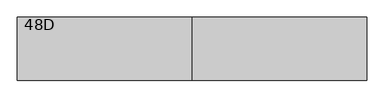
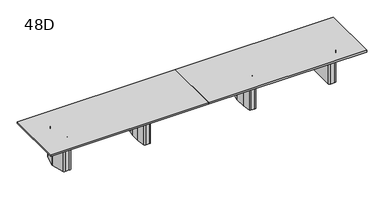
"""IFC4 building model written with IfcOpenShell, lengths in millimetres: furniture geometry, Coalesse_AM_Table_Conference_ETable2_Rectangular_22ft_FourBase : 48D."""

from ifc_helpers import new_model, si_unit, frame, origin, place, context, project, spatial, polyline, circle_curve, outline, extrude, source, transform, mapped, element, save
from ifc_brep_helpers import plane_surface, cylinder_surface, revolved_surface, advanced_brep


def furniture_48d_83eda018(model_context):
    return source(origin(), model_context, "Body", "SolidModel", [
        advanced_brep(
        [(1153.31875, 206.375, 3.175), (1127.91875, 231.775, 3.175), (1107.28125, 231.775, 3.175), (1081.88125, 206.375, 3.175), (1081.88125, -206.375, 3.175), (1107.28125, -231.775, 3.175), (1127.91875, -231.775, 3.175), (1153.31875, -206.375, 3.175), (1056.48125, 206.375, 0.0), (1107.28125, 257.175, 0.0), (1127.91875, 257.175, 0.0), (1178.71875, 206.375, 0.0), (1178.71875, -206.375, 0.0), (1127.91875, -257.175, 0.0), (1107.28125, -257.175, 0.0), (1056.48125, -206.375, 0.0), (1056.48125, -206.375, 3.175), (1056.48125, 206.375, 3.175), (1107.28125, -257.175, 3.175), (1127.91875, -257.175, 3.175), (1178.71875, -206.375, 3.175), (1178.71875, 206.375, 3.175), (1127.91875, 257.175, 3.175), (1107.28125, 257.175, 3.175), (1024.9784026, 106.2976848, 698.5), (1024.73125, 102.7629613, 698.5), (1024.73125, -102.7629613, 698.5), (1024.9784026, -106.2976848, 698.5), (1049.8011625, -282.9347235, 698.5), (1074.9540098, -304.8, 698.5), (1160.2459902, -304.8, 698.5), (1185.3988375, -282.9347235, 698.5), (1210.2215974, -106.2976848, 698.5), (1210.46875, -102.7629613, 698.5), (1210.46875, 102.7629613, 698.5), (1210.2215974, 106.2976848, 698.5), (1185.3988375, 282.9347235, 698.5), (1160.2459902, 304.8, 698.5), (1074.9540098, 304.8, 698.5), (1049.8011625, 282.9347235, 698.5), (1127.91875, 231.775, 698.5), (1153.31875, 206.375, 698.5), (1153.31875, -206.375, 698.5), (1127.91875, -231.775, 698.5), (1107.28125, -231.775, 698.5), (1081.88125, -206.375, 698.5), (1081.88125, 206.375, 698.5), (1107.28125, 231.775, 698.5), (1024.9784026, 106.2976848, 3.175), (1049.8011625, 282.9347235, 3.175), (1074.9540098, 304.8, 3.175), (1160.2459902, 304.8, 3.175), (1185.3988375, 282.9347235, 3.175), (1210.2215974, 106.2976848, 3.175), (1210.46875, 102.7629613, 3.175), (1210.46875, -102.7629613, 3.175), (1210.2215974, -106.2976848, 3.175), (1185.3988375, -282.9347235, 3.175), (1160.2459902, -304.8, 3.175), (1074.9540098, -304.8, 3.175), (1049.8011625, -282.9347235, 3.175), (1024.9784026, -106.2976848, 3.175), (1024.73125, -102.7629613, 3.175), (1024.73125, 102.7629613, 3.175)],
        [
            (0, 1, circle_curve(frame((1127.91875, 206.375, 3.175), z_axis=(0.0, 0.0, 1.0), x_axis=(1.0, 0.0, 0.0)), 25.4)),
            (1, 2),
            (2, 3, circle_curve(frame((1107.28125, 206.375, 3.175), z_axis=(0.0, 0.0, 1.0), x_axis=(1.0, 0.0, 0.0)), 25.4)),
            (3, 4),
            (4, 5, circle_curve(frame((1107.28125, -206.375, 3.175), z_axis=(0.0, 0.0, 1.0), x_axis=(1.0, 0.0, 0.0)), 25.4)),
            (5, 6),
            (6, 7, circle_curve(frame((1127.91875, -206.375, 3.175), z_axis=(0.0, 0.0, 1.0), x_axis=(1.0, 0.0, 0.0)), 25.4)),
            (7, 0),
            (8, 9, circle_curve(frame((1107.28125, 206.375, 0.0), z_axis=(0.0, 0.0, -1.0), x_axis=(1.0, 0.0, 0.0)), 50.8)),
            (9, 10),
            (10, 11, circle_curve(frame((1127.91875, 206.375, 0.0), z_axis=(0.0, 0.0, -1.0), x_axis=(1.0, 0.0, 0.0)), 50.8)),
            (11, 12),
            (12, 13, circle_curve(frame((1127.91875, -206.375, 0.0), z_axis=(0.0, 0.0, -1.0), x_axis=(1.0, 0.0, 0.0)), 50.8)),
            (13, 14),
            (14, 15, circle_curve(frame((1107.28125, -206.375, 0.0), z_axis=(0.0, 0.0, -1.0), x_axis=(1.0, 0.0, 0.0)), 50.8)),
            (15, 8),
            (15, 16),
            (16, 17),
            (17, 8),
            (14, 18),
            (18, 16, circle_curve(frame((1107.28125, -206.375, 3.175), z_axis=(0.0, 0.0, -1.0), x_axis=(1.0, 0.0, 0.0)), 50.8)),
            (13, 19),
            (19, 18),
            (12, 20),
            (20, 19, circle_curve(frame((1127.91875, -206.375, 3.175), z_axis=(0.0, 0.0, -1.0), x_axis=(1.0, 0.0, 0.0)), 50.8)),
            (11, 21),
            (21, 20),
            (10, 22),
            (22, 21, circle_curve(frame((1127.91875, 206.375, 3.175), z_axis=(0.0, 0.0, -1.0), x_axis=(1.0, 0.0, 0.0)), 50.8)),
            (9, 23),
            (23, 22),
            (17, 23, circle_curve(frame((1107.28125, 206.375, 3.175), z_axis=(0.0, 0.0, -1.0), x_axis=(1.0, 0.0, 0.0)), 50.8)),
            (24, 25, circle_curve(frame((1050.13125, 102.7629613, 698.5), z_axis=(0.0, 0.0, 1.0), x_axis=(1.0, 0.0, 0.0)), 25.4)),
            (25, 26),
            (26, 27, circle_curve(frame((1050.13125, -102.7629613, 698.5), z_axis=(0.0, 0.0, 1.0), x_axis=(1.0, 0.0, 0.0)), 25.4)),
            (27, 28),
            (28, 29, circle_curve(frame((1074.9540098, -279.4, 698.5), z_axis=(0.0, 0.0, 1.0), x_axis=(1.0, 0.0, 0.0)), 25.4)),
            (29, 30),
            (30, 31, circle_curve(frame((1160.2459902, -279.4, 698.5), z_axis=(0.0, 0.0, 1.0), x_axis=(1.0, 0.0, 0.0)), 25.4)),
            (31, 32),
            (32, 33, circle_curve(frame((1185.06875, -102.7629613, 698.5), z_axis=(0.0, 0.0, 1.0), x_axis=(1.0, 0.0, 0.0)), 25.4)),
            (33, 34),
            (34, 35, circle_curve(frame((1185.06875, 102.7629613, 698.5), z_axis=(0.0, 0.0, 1.0), x_axis=(1.0, 0.0, 0.0)), 25.4)),
            (35, 36),
            (36, 37, circle_curve(frame((1160.2459902, 279.4, 698.5), z_axis=(0.0, 0.0, 1.0), x_axis=(1.0, 0.0, 0.0)), 25.4)),
            (37, 38),
            (38, 39, circle_curve(frame((1074.9540098, 279.4, 698.5), z_axis=(0.0, 0.0, 1.0), x_axis=(1.0, 0.0, 0.0)), 25.4)),
            (39, 24),
            (40, 41, circle_curve(frame((1127.91875, 206.375, 698.5), z_axis=(0.0, 0.0, -1.0), x_axis=(1.0, 0.0, 0.0)), 25.4)),
            (41, 42),
            (42, 43, circle_curve(frame((1127.91875, -206.375, 698.5), z_axis=(0.0, 0.0, -1.0), x_axis=(1.0, 0.0, 0.0)), 25.4)),
            (43, 44),
            (44, 45, circle_curve(frame((1107.28125, -206.375, 698.5), z_axis=(0.0, 0.0, -1.0), x_axis=(1.0, 0.0, 0.0)), 25.4)),
            (45, 46),
            (46, 47, circle_curve(frame((1107.28125, 206.375, 698.5), z_axis=(0.0, 0.0, -1.0), x_axis=(1.0, 0.0, 0.0)), 25.4)),
            (47, 40),
            (48, 49),
            (49, 50, circle_curve(frame((1074.9540098, 279.4, 3.175), z_axis=(0.0, 0.0, -1.0), x_axis=(1.0, 0.0, 0.0)), 25.4)),
            (50, 51),
            (51, 52, circle_curve(frame((1160.2459902, 279.4, 3.175), z_axis=(0.0, 0.0, -1.0), x_axis=(1.0, 0.0, 0.0)), 25.4)),
            (52, 53),
            (53, 54, circle_curve(frame((1185.06875, 102.7629613, 3.175), z_axis=(0.0, 0.0, -1.0), x_axis=(1.0, 0.0, 0.0)), 25.4)),
            (54, 55),
            (55, 56, circle_curve(frame((1185.06875, -102.7629613, 3.175), z_axis=(0.0, 0.0, -1.0), x_axis=(1.0, 0.0, 0.0)), 25.4)),
            (56, 57),
            (57, 58, circle_curve(frame((1160.2459902, -279.4, 3.175), z_axis=(0.0, 0.0, -1.0), x_axis=(1.0, 0.0, 0.0)), 25.4)),
            (58, 59),
            (59, 60, circle_curve(frame((1074.9540098, -279.4, 3.175), z_axis=(0.0, 0.0, -1.0), x_axis=(1.0, 0.0, 0.0)), 25.4)),
            (60, 61),
            (61, 62, circle_curve(frame((1050.13125, -102.7629613, 3.175), z_axis=(0.0, 0.0, -1.0), x_axis=(1.0, 0.0, 0.0)), 25.4)),
            (62, 63),
            (63, 48, circle_curve(frame((1050.13125, 102.7629613, 3.175), z_axis=(0.0, 0.0, -1.0), x_axis=(1.0, 0.0, 0.0)), 25.4)),
            (24, 48),
            (63, 25),
            (62, 26),
            (61, 27),
            (60, 28),
            (59, 29),
            (58, 30),
            (57, 31),
            (56, 32),
            (55, 33),
            (54, 34),
            (53, 35),
            (52, 36),
            (51, 37),
            (50, 38),
            (49, 39),
            (40, 1),
            (0, 41),
            (7, 42),
            (6, 43),
            (5, 44),
            (4, 45),
            (3, 46),
            (2, 47),
        ],
        [
            plane_surface(frame((1056.48125, -206.375, 3.175), z_axis=(0.0, 0.0, 1.0), x_axis=(0.0, -1.0, 0.0))),
            plane_surface(frame((1056.48125, -206.375, 0.0), z_axis=(0.0, 0.0, -1.0), x_axis=(0.0, 1.0, 0.0))),
            plane_surface(frame((1056.48125, 206.375, 3.175), z_axis=(-1.0, 0.0, 0.0), x_axis=(0.0, 0.0, -1.0))),
            cylinder_surface(frame((1107.28125, -206.375, 0.0), z_axis=(0.0, 0.0, 1.0), x_axis=(1.0, 0.0, 0.0)), 50.8),
            plane_surface(frame((1107.28125, -257.175, 3.175), z_axis=(0.0, -1.0, 0.0), x_axis=(0.0, 0.0, -1.0))),
            cylinder_surface(frame((1127.91875, -206.375, 0.0), z_axis=(0.0, 0.0, 1.0), x_axis=(1.0, 0.0, 0.0)), 50.8),
            plane_surface(frame((1178.71875, -206.375, 3.175), z_axis=(1.0, 0.0, 0.0), x_axis=(0.0, 0.0, -1.0))),
            cylinder_surface(frame((1127.91875, 206.375, 0.0), z_axis=(0.0, 0.0, 1.0), x_axis=(1.0, 0.0, 0.0)), 50.8),
            plane_surface(frame((1127.91875, 257.175, 3.175), z_axis=(0.0, 1.0, 0.0), x_axis=(0.0, 0.0, -1.0))),
            cylinder_surface(frame((1107.28125, 206.375, 0.0), z_axis=(0.0, 0.0, 1.0), x_axis=(1.0, 0.0, 0.0)), 50.8),
            plane_surface(frame((1075.53125, 102.7629613, 698.5), z_axis=(0.0, 0.0, 1.0), x_axis=(0.0, 1.0, 0.0))),
            plane_surface(frame((1075.53125, 102.7629613, 3.175), z_axis=(0.0, 0.0, -1.0), x_axis=(0.0, -1.0, 0.0))),
            cylinder_surface(frame((1050.13125, 102.7629613, 3.175), z_axis=(0.0, 0.0, 1.0), x_axis=(1.0, 0.0, 0.0)), 25.4),
            plane_surface(frame((1024.73125, 102.7629613, 698.5), z_axis=(-1.0, 0.0, 0.0), x_axis=(0.0, 0.0, -1.0))),
            cylinder_surface(frame((1050.13125, -102.7629613, 3.175), z_axis=(0.0, 0.0, 1.0), x_axis=(1.0, 0.0, 0.0)), 25.4),
            plane_surface(frame((1024.9784026, -106.2976848, 698.5), z_axis=(-0.9902695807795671, -0.13916234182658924, 0.0), x_axis=(0.0, 0.0, -1.0))),
            cylinder_surface(frame((1074.9540098, -279.4, 3.175), z_axis=(0.0, 0.0, 1.0), x_axis=(1.0, 0.0, 0.0)), 25.4),
            plane_surface(frame((1074.9540098, -304.8, 698.5), z_axis=(0.0, -1.0, 0.0), x_axis=(0.0, 0.0, -1.0))),
            cylinder_surface(frame((1160.2459902, -279.4, 3.175), z_axis=(0.0, 0.0, 1.0), x_axis=(1.0, 0.0, 0.0)), 25.4),
            plane_surface(frame((1185.3988375, -282.9347235, 698.5), z_axis=(0.9902695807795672, -0.13916234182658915, 0.0), x_axis=(0.0, 0.0, -1.0))),
            cylinder_surface(frame((1185.06875, -102.7629613, 3.175), z_axis=(0.0, 0.0, 1.0), x_axis=(1.0, 0.0, 0.0)), 25.4),
            plane_surface(frame((1210.46875, -102.7629613, 698.5), z_axis=(1.0, 0.0, 0.0), x_axis=(0.0, 0.0, -1.0))),
            cylinder_surface(frame((1185.06875, 102.7629613, 3.175), z_axis=(0.0, 0.0, 1.0), x_axis=(1.0, 0.0, 0.0)), 25.4),
            plane_surface(frame((1210.2215974, 106.2976848, 698.5), z_axis=(0.9902695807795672, 0.1391623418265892, 0.0), x_axis=(0.0, 0.0, -1.0))),
            cylinder_surface(frame((1160.2459902, 279.4, 3.175), z_axis=(0.0, 0.0, 1.0), x_axis=(1.0, 0.0, 0.0)), 25.4),
            plane_surface(frame((1160.2459902, 304.8, 698.5), z_axis=(0.0, 1.0, 0.0), x_axis=(0.0, 0.0, -1.0))),
            cylinder_surface(frame((1074.9540098, 279.4, 3.175), z_axis=(0.0, 0.0, 1.0), x_axis=(1.0, 0.0, 0.0)), 25.4),
            plane_surface(frame((1049.8011625, 282.9347235, 698.5), z_axis=(-0.9902695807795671, 0.13916234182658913, 0.0), x_axis=(0.0, 0.0, -1.0))),
            revolved_surface(polyline([(1153.3187500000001, 206.375, 3.175), (1153.3187500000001, 206.375, 698.5)]), (1127.91875, 206.375, 0.0), (0.0, 0.0, -1.0)),
            plane_surface(frame((1153.31875, 206.375, 698.5), z_axis=(-1.0, 0.0, 0.0), x_axis=(0.0, 0.0, -1.0))),
            revolved_surface(polyline([(1153.3187500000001, -206.375, 3.175), (1153.3187500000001, -206.375, 698.5)]), (1127.91875, -206.375, 0.0), (0.0, 0.0, -1.0)),
            plane_surface(frame((1127.91875, -231.775, 698.5), z_axis=(0.0, 1.0, 0.0), x_axis=(0.0, 0.0, -1.0))),
            revolved_surface(polyline([(1132.68125, -206.375, 3.175), (1132.68125, -206.375, 698.5)]), (1107.28125, -206.375, 0.0), (0.0, 0.0, -1.0)),
            plane_surface(frame((1081.88125, -206.375, 698.5), z_axis=(1.0, 0.0, 0.0), x_axis=(0.0, 0.0, -1.0))),
            revolved_surface(polyline([(1132.68125, 206.375, 3.175), (1132.68125, 206.375, 698.5)]), (1107.28125, 206.375, 0.0), (0.0, 0.0, -1.0)),
            plane_surface(frame((1107.28125, 231.775, 698.5), z_axis=(0.0, -1.0, 0.0), x_axis=(0.0, 0.0, -1.0))),
        ],
        [
            (0, [[1, 2, 3, 4, 5, 6, 7, 8]]),
            (1, [[9, 10, 11, 12, 13, 14, 15, 16]]),
            (2, [[-16, 17, 18, 19]]),
            (3, [[-15, 20, 21, -17]]),
            (4, [[-14, 22, 23, -20]]),
            (5, [[-13, 24, 25, -22]]),
            (6, [[-12, 26, 27, -24]]),
            (7, [[-11, 28, 29, -26]]),
            (8, [[-10, 30, 31, -28]]),
            (9, [[-9, -19, 32, -30]]),
            (10, [[33, 34, 35, 36, 37, 38, 39, 40, 41, 42, 43, 44, 45, 46, 47, 48], [49, 50, 51, 52, 53, 54, 55, 56]]),
            (11, [[57, 58, 59, 60, 61, 62, 63, 64, 65, 66, 67, 68, 69, 70, 71, 72], [-18, -21, -23, -25, -27, -29, -31, -32]]),
            (12, [[-33, 73, -72, 74]]),
            (13, [[-34, -74, -71, 75]]),
            (14, [[-35, -75, -70, 76]]),
            (15, [[-36, -76, -69, 77]]),
            (16, [[-37, -77, -68, 78]]),
            (17, [[-38, -78, -67, 79]]),
            (18, [[-39, -79, -66, 80]]),
            (19, [[-40, -80, -65, 81]]),
            (20, [[-41, -81, -64, 82]]),
            (21, [[-42, -82, -63, 83]]),
            (22, [[-43, -83, -62, 84]]),
            (23, [[-44, -84, -61, 85]]),
            (24, [[-45, -85, -60, 86]]),
            (25, [[-46, -86, -59, 87]]),
            (26, [[-47, -87, -58, 88]]),
            (27, [[-48, -88, -57, -73]]),
            (28, [[-49, 89, -1, 90]]),
            (29, [[-50, -90, -8, 91]]),
            (30, [[-51, -91, -7, 92]]),
            (31, [[-52, -92, -6, 93]]),
            (32, [[-53, -93, -5, 94]]),
            (33, [[-54, -94, -4, 95]]),
            (34, [[-55, -95, -3, 96]]),
            (35, [[-56, -96, -2, -89]]),
        ],
    ),
        advanced_brep(
        [(-1081.88125, 206.375, 3.175), (-1107.28125, 231.775, 3.175), (-1127.91875, 231.775, 3.175), (-1153.31875, 206.375, 3.175), (-1153.31875, -206.375, 3.175), (-1127.91875, -231.775, 3.175), (-1107.28125, -231.775, 3.175), (-1081.88125, -206.375, 3.175), (-1178.71875, 206.375, 0.0), (-1127.91875, 257.175, 0.0), (-1107.28125, 257.175, 0.0), (-1056.48125, 206.375, 0.0), (-1056.48125, -206.375, 0.0), (-1107.28125, -257.175, 0.0), (-1127.91875, -257.175, 0.0), (-1178.71875, -206.375, 0.0), (-1178.71875, -206.375, 3.175), (-1178.71875, 206.375, 3.175), (-1127.91875, -257.175, 3.175), (-1107.28125, -257.175, 3.175), (-1056.48125, -206.375, 3.175), (-1056.48125, 206.375, 3.175), (-1107.28125, 257.175, 3.175), (-1127.91875, 257.175, 3.175), (-1210.2215974, 106.2976848, 698.5), (-1210.46875, 102.7629613, 698.5), (-1210.46875, -102.7629613, 698.5), (-1210.2215974, -106.2976848, 698.5), (-1185.3988375, -282.9347235, 698.5), (-1160.2459902, -304.8, 698.5), (-1074.9540098, -304.8, 698.5), (-1049.8011625, -282.9347235, 698.5), (-1024.9784026, -106.2976848, 698.5), (-1024.73125, -102.7629613, 698.5), (-1024.73125, 102.7629613, 698.5), (-1024.9784026, 106.2976848, 698.5), (-1049.8011625, 282.9347235, 698.5), (-1074.9540098, 304.8, 698.5), (-1160.2459902, 304.8, 698.5), (-1185.3988375, 282.9347235, 698.5), (-1107.28125, 231.775, 698.5), (-1081.88125, 206.375, 698.5), (-1081.88125, -206.375, 698.5), (-1107.28125, -231.775, 698.5), (-1127.91875, -231.775, 698.5), (-1153.31875, -206.375, 698.5), (-1153.31875, 206.375, 698.5), (-1127.91875, 231.775, 698.5), (-1210.2215974, 106.2976848, 3.175), (-1185.3988375, 282.9347235, 3.175), (-1160.2459902, 304.8, 3.175), (-1074.9540098, 304.8, 3.175), (-1049.8011625, 282.9347235, 3.175), (-1024.9784026, 106.2976848, 3.175), (-1024.73125, 102.7629613, 3.175), (-1024.73125, -102.7629613, 3.175), (-1024.9784026, -106.2976848, 3.175), (-1049.8011625, -282.9347235, 3.175), (-1074.9540098, -304.8, 3.175), (-1160.2459902, -304.8, 3.175), (-1185.3988375, -282.9347235, 3.175), (-1210.2215974, -106.2976848, 3.175), (-1210.46875, -102.7629613, 3.175), (-1210.46875, 102.7629613, 3.175)],
        [
            (0, 1, circle_curve(frame((-1107.28125, 206.375, 3.175), z_axis=(0.0, 0.0, 1.0), x_axis=(1.0, 0.0, 0.0)), 25.4)),
            (1, 2),
            (2, 3, circle_curve(frame((-1127.91875, 206.375, 3.175), z_axis=(0.0, 0.0, 1.0), x_axis=(1.0, 0.0, 0.0)), 25.4)),
            (3, 4),
            (4, 5, circle_curve(frame((-1127.91875, -206.375, 3.175), z_axis=(0.0, 0.0, 1.0), x_axis=(1.0, 0.0, 0.0)), 25.4)),
            (5, 6),
            (6, 7, circle_curve(frame((-1107.28125, -206.375, 3.175), z_axis=(0.0, 0.0, 1.0), x_axis=(1.0, 0.0, 0.0)), 25.4)),
            (7, 0),
            (8, 9, circle_curve(frame((-1127.91875, 206.375, 0.0), z_axis=(0.0, 0.0, -1.0), x_axis=(1.0, 0.0, 0.0)), 50.8)),
            (9, 10),
            (10, 11, circle_curve(frame((-1107.28125, 206.375, 0.0), z_axis=(0.0, 0.0, -1.0), x_axis=(1.0, 0.0, 0.0)), 50.8)),
            (11, 12),
            (12, 13, circle_curve(frame((-1107.28125, -206.375, 0.0), z_axis=(0.0, 0.0, -1.0), x_axis=(1.0, 0.0, 0.0)), 50.8)),
            (13, 14),
            (14, 15, circle_curve(frame((-1127.91875, -206.375, 0.0), z_axis=(0.0, 0.0, -1.0), x_axis=(1.0, 0.0, 0.0)), 50.8)),
            (15, 8),
            (15, 16),
            (16, 17),
            (17, 8),
            (14, 18),
            (18, 16, circle_curve(frame((-1127.91875, -206.375, 3.175), z_axis=(0.0, 0.0, -1.0), x_axis=(1.0, 0.0, 0.0)), 50.8)),
            (13, 19),
            (19, 18),
            (12, 20),
            (20, 19, circle_curve(frame((-1107.28125, -206.375, 3.175), z_axis=(0.0, 0.0, -1.0), x_axis=(1.0, 0.0, 0.0)), 50.8)),
            (11, 21),
            (21, 20),
            (10, 22),
            (22, 21, circle_curve(frame((-1107.28125, 206.375, 3.175), z_axis=(0.0, 0.0, -1.0), x_axis=(1.0, 0.0, 0.0)), 50.8)),
            (9, 23),
            (23, 22),
            (17, 23, circle_curve(frame((-1127.91875, 206.375, 3.175), z_axis=(0.0, 0.0, -1.0), x_axis=(1.0, 0.0, 0.0)), 50.8)),
            (24, 25, circle_curve(frame((-1185.06875, 102.7629613, 698.5), z_axis=(0.0, 0.0, 1.0), x_axis=(1.0, 0.0, 0.0)), 25.4)),
            (25, 26),
            (26, 27, circle_curve(frame((-1185.06875, -102.7629613, 698.5), z_axis=(0.0, 0.0, 1.0), x_axis=(1.0, 0.0, 0.0)), 25.4)),
            (27, 28),
            (28, 29, circle_curve(frame((-1160.2459902, -279.4, 698.5), z_axis=(0.0, 0.0, 1.0), x_axis=(1.0, 0.0, 0.0)), 25.4)),
            (29, 30),
            (30, 31, circle_curve(frame((-1074.9540098, -279.4, 698.5), z_axis=(0.0, 0.0, 1.0), x_axis=(1.0, 0.0, 0.0)), 25.4)),
            (31, 32),
            (32, 33, circle_curve(frame((-1050.13125, -102.7629613, 698.5), z_axis=(0.0, 0.0, 1.0), x_axis=(1.0, 0.0, 0.0)), 25.4)),
            (33, 34),
            (34, 35, circle_curve(frame((-1050.13125, 102.7629613, 698.5), z_axis=(0.0, 0.0, 1.0), x_axis=(1.0, 0.0, 0.0)), 25.4)),
            (35, 36),
            (36, 37, circle_curve(frame((-1074.9540098, 279.4, 698.5), z_axis=(0.0, 0.0, 1.0), x_axis=(1.0, 0.0, 0.0)), 25.4)),
            (37, 38),
            (38, 39, circle_curve(frame((-1160.2459902, 279.4, 698.5), z_axis=(0.0, 0.0, 1.0), x_axis=(1.0, 0.0, 0.0)), 25.4)),
            (39, 24),
            (40, 41, circle_curve(frame((-1107.28125, 206.375, 698.5), z_axis=(0.0, 0.0, -1.0), x_axis=(1.0, 0.0, 0.0)), 25.4)),
            (41, 42),
            (42, 43, circle_curve(frame((-1107.28125, -206.375, 698.5), z_axis=(0.0, 0.0, -1.0), x_axis=(1.0, 0.0, 0.0)), 25.4)),
            (43, 44),
            (44, 45, circle_curve(frame((-1127.91875, -206.375, 698.5), z_axis=(0.0, 0.0, -1.0), x_axis=(1.0, 0.0, 0.0)), 25.4)),
            (45, 46),
            (46, 47, circle_curve(frame((-1127.91875, 206.375, 698.5), z_axis=(0.0, 0.0, -1.0), x_axis=(1.0, 0.0, 0.0)), 25.4)),
            (47, 40),
            (48, 49),
            (49, 50, circle_curve(frame((-1160.2459902, 279.4, 3.175), z_axis=(0.0, 0.0, -1.0), x_axis=(1.0, 0.0, 0.0)), 25.4)),
            (50, 51),
            (51, 52, circle_curve(frame((-1074.9540098, 279.4, 3.175), z_axis=(0.0, 0.0, -1.0), x_axis=(1.0, 0.0, 0.0)), 25.4)),
            (52, 53),
            (53, 54, circle_curve(frame((-1050.13125, 102.7629613, 3.175), z_axis=(0.0, 0.0, -1.0), x_axis=(1.0, 0.0, 0.0)), 25.4)),
            (54, 55),
            (55, 56, circle_curve(frame((-1050.13125, -102.7629613, 3.175), z_axis=(0.0, 0.0, -1.0), x_axis=(1.0, 0.0, 0.0)), 25.4)),
            (56, 57),
            (57, 58, circle_curve(frame((-1074.9540098, -279.4, 3.175), z_axis=(0.0, 0.0, -1.0), x_axis=(1.0, 0.0, 0.0)), 25.4)),
            (58, 59),
            (59, 60, circle_curve(frame((-1160.2459902, -279.4, 3.175), z_axis=(0.0, 0.0, -1.0), x_axis=(1.0, 0.0, 0.0)), 25.4)),
            (60, 61),
            (61, 62, circle_curve(frame((-1185.06875, -102.7629613, 3.175), z_axis=(0.0, 0.0, -1.0), x_axis=(1.0, 0.0, 0.0)), 25.4)),
            (62, 63),
            (63, 48, circle_curve(frame((-1185.06875, 102.7629613, 3.175), z_axis=(0.0, 0.0, -1.0), x_axis=(1.0, 0.0, 0.0)), 25.4)),
            (24, 48),
            (63, 25),
            (62, 26),
            (61, 27),
            (60, 28),
            (59, 29),
            (58, 30),
            (57, 31),
            (56, 32),
            (55, 33),
            (54, 34),
            (53, 35),
            (52, 36),
            (51, 37),
            (50, 38),
            (49, 39),
            (40, 1),
            (0, 41),
            (7, 42),
            (6, 43),
            (5, 44),
            (4, 45),
            (3, 46),
            (2, 47),
        ],
        [
            plane_surface(frame((-1178.71875, -206.375, 3.175), z_axis=(0.0, 0.0, 1.0), x_axis=(0.0, -1.0, 0.0))),
            plane_surface(frame((-1178.71875, -206.375, 0.0), z_axis=(0.0, 0.0, -1.0), x_axis=(0.0, 1.0, 0.0))),
            plane_surface(frame((-1178.71875, 206.375, 3.175), z_axis=(-1.0, 0.0, 0.0), x_axis=(0.0, 0.0, -1.0))),
            cylinder_surface(frame((-1127.91875, -206.375, 0.0), z_axis=(0.0, 0.0, 1.0), x_axis=(1.0, 0.0, 0.0)), 50.8),
            plane_surface(frame((-1127.91875, -257.175, 3.175), z_axis=(0.0, -1.0, 0.0), x_axis=(0.0, 0.0, -1.0))),
            cylinder_surface(frame((-1107.28125, -206.375, 0.0), z_axis=(0.0, 0.0, 1.0), x_axis=(1.0, 0.0, 0.0)), 50.8),
            plane_surface(frame((-1056.48125, -206.375, 3.175), z_axis=(1.0, 0.0, 0.0), x_axis=(0.0, 0.0, -1.0))),
            cylinder_surface(frame((-1107.28125, 206.375, 0.0), z_axis=(0.0, 0.0, 1.0), x_axis=(1.0, 0.0, 0.0)), 50.8),
            plane_surface(frame((-1107.28125, 257.175, 3.175), z_axis=(0.0, 1.0, 0.0), x_axis=(0.0, 0.0, -1.0))),
            cylinder_surface(frame((-1127.91875, 206.375, 0.0), z_axis=(0.0, 0.0, 1.0), x_axis=(1.0, 0.0, 0.0)), 50.8),
            plane_surface(frame((-1159.66875, 102.7629613, 698.5), z_axis=(0.0, 0.0, 1.0), x_axis=(0.0, 1.0, 0.0))),
            plane_surface(frame((-1159.66875, 102.7629613, 3.175), z_axis=(0.0, 0.0, -1.0), x_axis=(0.0, -1.0, 0.0))),
            cylinder_surface(frame((-1185.06875, 102.7629613, 3.175), z_axis=(0.0, 0.0, 1.0), x_axis=(1.0, 0.0, 0.0)), 25.4),
            plane_surface(frame((-1210.46875, 102.7629613, 698.5), z_axis=(-1.0, 0.0, 0.0), x_axis=(0.0, 0.0, -1.0))),
            cylinder_surface(frame((-1185.06875, -102.7629613, 3.175), z_axis=(0.0, 0.0, 1.0), x_axis=(1.0, 0.0, 0.0)), 25.4),
            plane_surface(frame((-1210.2215974, -106.2976848, 698.5), z_axis=(-0.9902695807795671, -0.13916234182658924, 0.0), x_axis=(0.0, 0.0, -1.0))),
            cylinder_surface(frame((-1160.2459902, -279.4, 3.175), z_axis=(0.0, 0.0, 1.0), x_axis=(1.0, 0.0, 0.0)), 25.4),
            plane_surface(frame((-1160.2459902, -304.8, 698.5), z_axis=(0.0, -1.0, 0.0), x_axis=(0.0, 0.0, -1.0))),
            cylinder_surface(frame((-1074.9540098, -279.4, 3.175), z_axis=(0.0, 0.0, 1.0), x_axis=(1.0, 0.0, 0.0)), 25.4),
            plane_surface(frame((-1049.8011625, -282.9347235, 698.5), z_axis=(0.9902695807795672, -0.13916234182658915, 0.0), x_axis=(0.0, 0.0, -1.0))),
            cylinder_surface(frame((-1050.13125, -102.7629613, 3.175), z_axis=(0.0, 0.0, 1.0), x_axis=(1.0, 0.0, 0.0)), 25.4),
            plane_surface(frame((-1024.73125, -102.7629613, 698.5), z_axis=(1.0, 0.0, 0.0), x_axis=(0.0, 0.0, -1.0))),
            cylinder_surface(frame((-1050.13125, 102.7629613, 3.175), z_axis=(0.0, 0.0, 1.0), x_axis=(1.0, 0.0, 0.0)), 25.4),
            plane_surface(frame((-1024.9784026, 106.2976848, 698.5), z_axis=(0.9902695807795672, 0.1391623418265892, 0.0), x_axis=(0.0, 0.0, -1.0))),
            cylinder_surface(frame((-1074.9540098, 279.4, 3.175), z_axis=(0.0, 0.0, 1.0), x_axis=(1.0, 0.0, 0.0)), 25.4),
            plane_surface(frame((-1074.9540098, 304.8, 698.5), z_axis=(0.0, 1.0, 0.0), x_axis=(0.0, 0.0, -1.0))),
            cylinder_surface(frame((-1160.2459902, 279.4, 3.175), z_axis=(0.0, 0.0, 1.0), x_axis=(1.0, 0.0, 0.0)), 25.4),
            plane_surface(frame((-1185.3988375, 282.9347235, 698.5), z_axis=(-0.9902695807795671, 0.13916234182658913, 0.0), x_axis=(0.0, 0.0, -1.0))),
            revolved_surface(polyline([(-1081.88125, 206.375, 3.175), (-1081.88125, 206.375, 698.5)]), (-1107.28125, 206.375, 0.0), (0.0, 0.0, -1.0)),
            plane_surface(frame((-1081.88125, 206.375, 698.5), z_axis=(-1.0, 0.0, 0.0), x_axis=(0.0, 0.0, -1.0))),
            revolved_surface(polyline([(-1081.88125, -206.375, 3.175), (-1081.88125, -206.375, 698.5)]), (-1107.28125, -206.375, 0.0), (0.0, 0.0, -1.0)),
            plane_surface(frame((-1107.28125, -231.775, 698.5), z_axis=(0.0, 1.0, 0.0), x_axis=(0.0, 0.0, -1.0))),
            revolved_surface(polyline([(-1102.51875, -206.375, 3.175), (-1102.51875, -206.375, 698.5)]), (-1127.91875, -206.375, 0.0), (0.0, 0.0, -1.0)),
            plane_surface(frame((-1153.31875, -206.375, 698.5), z_axis=(1.0, 0.0, 0.0), x_axis=(0.0, 0.0, -1.0))),
            revolved_surface(polyline([(-1102.51875, 206.375, 3.175), (-1102.51875, 206.375, 698.5)]), (-1127.91875, 206.375, 0.0), (0.0, 0.0, -1.0)),
            plane_surface(frame((-1127.91875, 231.775, 698.5), z_axis=(0.0, -1.0, 0.0), x_axis=(0.0, 0.0, -1.0))),
        ],
        [
            (0, [[1, 2, 3, 4, 5, 6, 7, 8]]),
            (1, [[9, 10, 11, 12, 13, 14, 15, 16]]),
            (2, [[-16, 17, 18, 19]]),
            (3, [[-15, 20, 21, -17]]),
            (4, [[-14, 22, 23, -20]]),
            (5, [[-13, 24, 25, -22]]),
            (6, [[-12, 26, 27, -24]]),
            (7, [[-11, 28, 29, -26]]),
            (8, [[-10, 30, 31, -28]]),
            (9, [[-9, -19, 32, -30]]),
            (10, [[33, 34, 35, 36, 37, 38, 39, 40, 41, 42, 43, 44, 45, 46, 47, 48], [49, 50, 51, 52, 53, 54, 55, 56]]),
            (11, [[57, 58, 59, 60, 61, 62, 63, 64, 65, 66, 67, 68, 69, 70, 71, 72], [-18, -21, -23, -25, -27, -29, -31, -32]]),
            (12, [[-33, 73, -72, 74]]),
            (13, [[-34, -74, -71, 75]]),
            (14, [[-35, -75, -70, 76]]),
            (15, [[-36, -76, -69, 77]]),
            (16, [[-37, -77, -68, 78]]),
            (17, [[-38, -78, -67, 79]]),
            (18, [[-39, -79, -66, 80]]),
            (19, [[-40, -80, -65, 81]]),
            (20, [[-41, -81, -64, 82]]),
            (21, [[-42, -82, -63, 83]]),
            (22, [[-43, -83, -62, 84]]),
            (23, [[-44, -84, -61, 85]]),
            (24, [[-45, -85, -60, 86]]),
            (25, [[-46, -86, -59, 87]]),
            (26, [[-47, -87, -58, 88]]),
            (27, [[-48, -88, -57, -73]]),
            (28, [[-49, 89, -1, 90]]),
            (29, [[-50, -90, -8, 91]]),
            (30, [[-51, -91, -7, 92]]),
            (31, [[-52, -92, -6, 93]]),
            (32, [[-53, -93, -5, 94]]),
            (33, [[-54, -94, -4, 95]]),
            (34, [[-55, -95, -3, 96]]),
            (35, [[-56, -96, -2, -89]]),
        ],
    ),
        advanced_brep(
        [(2894.224548, 274.2093613, 698.5), (2854.3579246, 304.8, 698.5), (2765.425, 304.8, 698.5), (2724.15, 263.525, 698.5), (2724.15, -263.525, 698.5), (2765.425, -304.8, 698.5), (2854.3579246, -304.8, 698.5), (2894.224548, -274.2093613, 698.5), (2964.8503901, -10.6333708, 698.5), (2964.8503901, 10.6333708, 698.5), (2762.25, -206.375, 698.5), (2762.25, 206.375, 698.5), (2787.65, 231.775, 698.5), (2846.6608422, 231.775, 698.5), (2871.195338, 212.9490792, 698.5), (2909.8875, 68.54974, 698.5), (2909.8875, -68.54974, 698.5), (2871.195338, -212.9490792, 698.5), (2846.6608422, -231.775, 698.5), (2787.65, -231.775, 698.5), (2894.224548, 274.2093613, 3.175), (2964.8503901, 10.6333708, 3.175), (2964.8503901, -10.6333708, 3.175), (2894.224548, -274.2093613, 3.175), (2854.3579246, -304.8, 3.175), (2765.425, -304.8, 3.175), (2724.15, -263.525, 3.175), (2724.15, 263.525, 3.175), (2765.425, 304.8, 3.175), (2854.3579246, 304.8, 3.175), (2883.4625859, 216.2361187, 3.175), (2846.6608422, 244.475, 3.175), (2787.65, 244.475, 3.175), (2749.55, 206.375, 3.175), (2749.55, -206.375, 3.175), (2787.65, -244.475, 3.175), (2846.6608422, -244.475, 3.175), (2883.4625859, -216.2361187, 3.175), (2922.5875, -70.2217466, 3.175), (2922.5875, 70.2217466, 3.175), (2787.65, -231.775, 3.175), (2762.25, -206.375, 3.175), (2846.6608422, -231.775, 3.175), (2871.195338, -212.9490792, 3.175), (2909.8875, -68.54974, 3.175), (2909.8875, 68.54974, 3.175), (2871.195338, 212.9490792, 3.175), (2846.6608422, 231.775, 3.175), (2787.65, 231.775, 3.175), (2762.25, 206.375, 3.175), (2883.4625859, 216.2361187, 0.0), (2922.5875, 70.2217466, 0.0), (2922.5875, -70.2217466, 0.0), (2883.4625859, -216.2361187, 0.0), (2846.6608422, -244.475, 0.0), (2787.65, -244.475, 0.0), (2749.55, -206.375, 0.0), (2749.55, 206.375, 0.0), (2787.65, 244.475, 0.0), (2846.6608422, 244.475, 0.0)],
        [
            (0, 1, circle_curve(frame((2854.3579246, 263.5270004, 698.5), z_axis=(0.0, 0.0, 1.0), x_axis=(-1.0, 0.0, 0.0)), 41.2729996)),
            (1, 2),
            (2, 3, circle_curve(frame((2765.425, 263.525, 698.5), z_axis=(0.0, 0.0, 1.0), x_axis=(-1.0, 0.0, 0.0)), 41.275)),
            (3, 4),
            (4, 5, circle_curve(frame((2765.425, -263.525, 698.5), z_axis=(0.0, 0.0, 1.0), x_axis=(-1.0, 0.0, 0.0)), 41.275)),
            (5, 6),
            (6, 7, circle_curve(frame((2854.3579246, -263.5270004, 698.5), z_axis=(0.0, 0.0, 1.0), x_axis=(-1.0, 0.0, 0.0)), 41.2729996)),
            (7, 8),
            (8, 9, circle_curve(frame((2925.1665979, 0.0, 698.5), z_axis=(0.0, 0.0, 1.0), x_axis=(-1.0, 0.0, 0.0)), 41.0837187)),
            (9, 0),
            (10, 11),
            (11, 12, circle_curve(frame((2787.65, 206.375, 698.5), z_axis=(0.0, 0.0, -1.0), x_axis=(-1.0, 0.0, 0.0)), 25.4)),
            (12, 13),
            (13, 14, circle_curve(frame((2846.6608422, 206.375, 698.5), z_axis=(0.0, 0.0, -1.0), x_axis=(-1.0, 0.0, 0.0)), 25.4)),
            (14, 15),
            (15, 16),
            (16, 17),
            (17, 18, circle_curve(frame((2846.6608422, -206.375, 698.5), z_axis=(0.0, 0.0, -1.0), x_axis=(-1.0, 0.0, 0.0)), 25.4)),
            (18, 19),
            (19, 10, circle_curve(frame((2787.65, -206.375, 698.5), z_axis=(0.0, 0.0, -1.0), x_axis=(-1.0, 0.0, 0.0)), 25.4)),
            (20, 21),
            (21, 22, circle_curve(frame((2925.1665979, 0.0, 3.175), z_axis=(0.0, 0.0, -1.0), x_axis=(-1.0, 0.0, 0.0)), 41.0837187)),
            (22, 23),
            (23, 24, circle_curve(frame((2854.3579246, -263.5270004, 3.175), z_axis=(0.0, 0.0, -1.0), x_axis=(-1.0, 0.0, 0.0)), 41.2729996)),
            (24, 25),
            (25, 26, circle_curve(frame((2765.425, -263.525, 3.175), z_axis=(0.0, 0.0, -1.0), x_axis=(-1.0, 0.0, 0.0)), 41.275)),
            (26, 27),
            (27, 28, circle_curve(frame((2765.425, 263.525, 3.175), z_axis=(0.0, 0.0, -1.0), x_axis=(-1.0, 0.0, 0.0)), 41.275)),
            (28, 29),
            (29, 20, circle_curve(frame((2854.3579246, 263.5270004, 3.175), z_axis=(0.0, 0.0, -1.0), x_axis=(-1.0, 0.0, 0.0)), 41.2729996)),
            (30, 31, circle_curve(frame((2846.6608422, 206.375, 3.175), z_axis=(0.0, 0.0, 1.0), x_axis=(-1.0, 0.0, 0.0)), 38.1)),
            (31, 32),
            (32, 33, circle_curve(frame((2787.65, 206.375, 3.175), z_axis=(0.0, 0.0, 1.0), x_axis=(-1.0, 0.0, 0.0)), 38.1)),
            (33, 34),
            (34, 35, circle_curve(frame((2787.65, -206.375, 3.175), z_axis=(0.0, 0.0, 1.0), x_axis=(-1.0, 0.0, 0.0)), 38.1)),
            (35, 36),
            (36, 37, circle_curve(frame((2846.6608422, -206.375, 3.175), z_axis=(0.0, 0.0, 1.0), x_axis=(-1.0, 0.0, 0.0)), 38.1)),
            (37, 38),
            (38, 39),
            (39, 30),
            (9, 21),
            (20, 0),
            (8, 22),
            (7, 23),
            (6, 24),
            (5, 25),
            (4, 26),
            (3, 27),
            (2, 28),
            (1, 29),
            (19, 40),
            (40, 41, circle_curve(frame((2787.65, -206.375, 3.175), z_axis=(0.0, 0.0, -1.0), x_axis=(-1.0, 0.0, 0.0)), 25.4)),
            (41, 10),
            (18, 42),
            (42, 40),
            (17, 43),
            (43, 42, circle_curve(frame((2846.6608422, -206.375, 3.175), z_axis=(0.0, 0.0, -1.0), x_axis=(-1.0, 0.0, 0.0)), 25.4)),
            (16, 44),
            (44, 43),
            (15, 45),
            (45, 44),
            (14, 46),
            (46, 45),
            (13, 47),
            (47, 46, circle_curve(frame((2846.6608422, 206.375, 3.175), z_axis=(0.0, 0.0, -1.0), x_axis=(-1.0, 0.0, 0.0)), 25.4)),
            (12, 48),
            (48, 47),
            (11, 49),
            (49, 48, circle_curve(frame((2787.65, 206.375, 3.175), z_axis=(0.0, 0.0, -1.0), x_axis=(-1.0, 0.0, 0.0)), 25.4)),
            (41, 49),
            (50, 51),
            (51, 52),
            (52, 53),
            (53, 54, circle_curve(frame((2846.6608422, -206.375, 0.0), z_axis=(0.0, 0.0, -1.0), x_axis=(-1.0, 0.0, 0.0)), 38.1)),
            (54, 55),
            (55, 56, circle_curve(frame((2787.65, -206.375, 0.0), z_axis=(0.0, 0.0, -1.0), x_axis=(-1.0, 0.0, 0.0)), 38.1)),
            (56, 57),
            (57, 58, circle_curve(frame((2787.65, 206.375, 0.0), z_axis=(0.0, 0.0, -1.0), x_axis=(-1.0, 0.0, 0.0)), 38.1)),
            (58, 59),
            (59, 50, circle_curve(frame((2846.6608422, 206.375, 0.0), z_axis=(0.0, 0.0, -1.0), x_axis=(-1.0, 0.0, 0.0)), 38.1)),
            (50, 30),
            (39, 51),
            (38, 52),
            (37, 53),
            (36, 54),
            (35, 55),
            (34, 56),
            (33, 57),
            (32, 58),
            (31, 59),
        ],
        [
            plane_surface(frame((2964.8374275, 10.6817473, 698.5), z_axis=(0.0, 0.0, 1.0000000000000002), x_axis=(0.25882201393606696, -0.9659250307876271, 0.0))),
            plane_surface(frame((2964.8374275, 10.6817473, 3.175), z_axis=(0.0, 0.0, -1.0000000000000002), x_axis=(-0.25882201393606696, 0.9659250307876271, 0.0))),
            plane_surface(frame((2894.224548, 274.2093613, 698.5), z_axis=(0.9659250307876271, 0.25882201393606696, 0.0), x_axis=(0.0, 0.0, -1.0))),
            cylinder_surface(frame((2925.1665979, 0.0, 3.175), z_axis=(0.0, 0.0, 1.0), x_axis=(-1.0, 0.0, 0.0)), 41.0837187),
            plane_surface(frame((2964.8503901, -10.6333708, 698.5), z_axis=(0.9659250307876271, -0.2588220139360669, 0.0), x_axis=(0.0, 0.0, -1.0))),
            cylinder_surface(frame((2854.3579246, -263.5270004, 3.175), z_axis=(0.0, 0.0, 1.0), x_axis=(-1.0, 0.0, 0.0)), 41.2729996),
            plane_surface(frame((2854.3579246, -304.8, 698.5), z_axis=(0.0, -1.0, 0.0), x_axis=(0.0, 0.0, -1.0))),
            cylinder_surface(frame((2765.425, -263.525, 3.175), z_axis=(0.0, 0.0, 1.0), x_axis=(-1.0, 0.0, 0.0)), 41.275),
            plane_surface(frame((2724.15, -263.525, 698.5), z_axis=(-1.0, 0.0, 0.0), x_axis=(0.0, 0.0, -1.0))),
            cylinder_surface(frame((2765.425, 263.525, 3.175), z_axis=(0.0, 0.0, 1.0), x_axis=(-1.0, 0.0, 0.0)), 41.275),
            plane_surface(frame((2765.425, 304.8, 698.5), z_axis=(0.0, 1.0, 0.0), x_axis=(0.0, 0.0, -1.0))),
            cylinder_surface(frame((2854.3579246, 263.5270004, 3.175), z_axis=(0.0, 0.0, 1.0), x_axis=(-1.0, 0.0, 0.0)), 41.2729996),
            revolved_surface(polyline([(2762.25, -206.375, 3.175), (2762.25, -206.375, 698.5)]), (2787.65, -206.375, 0.0), (0.0, 0.0, -1.0)),
            plane_surface(frame((2787.65, -231.775, 698.5), z_axis=(0.0, 1.0, 0.0), x_axis=(0.0, 0.0, -1.0))),
            revolved_surface(polyline([(2821.2608422, -206.375, 3.175), (2821.2608422, -206.375, 698.5)]), (2846.6608422, -206.375, 0.0), (0.0, 0.0, -1.0)),
            plane_surface(frame((2871.195338, -212.9490792, 698.5), z_axis=(-0.9659250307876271, 0.2588220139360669, 0.0), x_axis=(0.0, 0.0, -1.0))),
            plane_surface(frame((2909.8875, -68.54974, 698.5), z_axis=(-1.0, 0.0, 0.0), x_axis=(0.0, 0.0, -1.0))),
            plane_surface(frame((2909.8875, 68.54974, 698.5), z_axis=(-0.9659250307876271, -0.25882201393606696, 0.0), x_axis=(0.0, 0.0, -1.0))),
            revolved_surface(polyline([(2821.2608422, 206.375, 3.175), (2821.2608422, 206.375, 698.5)]), (2846.6608422, 206.375, 0.0), (0.0, 0.0, -1.0)),
            plane_surface(frame((2846.6608422, 231.775, 698.5), z_axis=(0.0, -1.0, 0.0), x_axis=(0.0, 0.0, -1.0))),
            revolved_surface(polyline([(2762.25, 206.375, 3.175), (2762.25, 206.375, 698.5)]), (2787.65, 206.375, 0.0), (0.0, 0.0, -1.0)),
            plane_surface(frame((2762.25, 206.375, 698.5), z_axis=(1.0, 0.0, 0.0), x_axis=(0.0, 0.0, -1.0))),
            plane_surface(frame((2922.1547479, 71.8367796, 3.175), z_axis=(0.0, 0.0, 1.0), x_axis=(0.25882201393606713, -0.965925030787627, 0.0))),
            plane_surface(frame((2922.1547479, 71.8367796, 0.0), z_axis=(0.0, 0.0, -1.0), x_axis=(-0.25882201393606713, 0.965925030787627, 0.0))),
            plane_surface(frame((2883.4625859, 216.2361187, 3.175), z_axis=(0.965925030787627, 0.25882201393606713, 0.0), x_axis=(0.0, 0.0, -1.0))),
            plane_surface(frame((2922.5875, 70.2217466, 3.175), z_axis=(1.0, 0.0, 0.0), x_axis=(0.0, 0.0, -1.0))),
            plane_surface(frame((2922.5875, -70.2217466, 3.175), z_axis=(0.9659250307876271, -0.2588220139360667, 0.0), x_axis=(0.0, 0.0, -1.0))),
            cylinder_surface(frame((2846.6608422, -206.375, 0.0), z_axis=(0.0, 0.0, 1.0), x_axis=(-1.0, 0.0, 0.0)), 38.1),
            plane_surface(frame((2846.6608422, -244.475, 3.175), z_axis=(0.0, -1.0, 0.0), x_axis=(0.0, 0.0, -1.0))),
            cylinder_surface(frame((2787.65, -206.375, 0.0), z_axis=(0.0, 0.0, 1.0), x_axis=(-1.0, 0.0, 0.0)), 38.1),
            plane_surface(frame((2749.55, -206.375, 3.175), z_axis=(-1.0, 0.0, 0.0), x_axis=(0.0, 0.0, -1.0))),
            cylinder_surface(frame((2787.65, 206.375, 0.0), z_axis=(0.0, 0.0, 1.0), x_axis=(-1.0, 0.0, 0.0)), 38.1),
            plane_surface(frame((2787.65, 244.475, 3.175), z_axis=(0.0, 1.0, 0.0), x_axis=(0.0, 0.0, -1.0))),
            cylinder_surface(frame((2846.6608422, 206.375, 0.0), z_axis=(0.0, 0.0, 1.0), x_axis=(-1.0, 0.0, 0.0)), 38.1),
        ],
        [
            (0, [[1, 2, 3, 4, 5, 6, 7, 8, 9, 10], [11, 12, 13, 14, 15, 16, 17, 18, 19, 20]]),
            (1, [[21, 22, 23, 24, 25, 26, 27, 28, 29, 30], [31, 32, 33, 34, 35, 36, 37, 38, 39, 40]]),
            (2, [[41, -21, 42, -10]]),
            (3, [[43, -22, -41, -9]]),
            (4, [[44, -23, -43, -8]]),
            (5, [[45, -24, -44, -7]]),
            (6, [[46, -25, -45, -6]]),
            (7, [[47, -26, -46, -5]]),
            (8, [[48, -27, -47, -4]]),
            (9, [[49, -28, -48, -3]]),
            (10, [[50, -29, -49, -2]]),
            (11, [[-42, -30, -50, -1]]),
            (12, [[51, 52, 53, -20]]),
            (13, [[54, 55, -51, -19]]),
            (14, [[56, 57, -54, -18]]),
            (15, [[58, 59, -56, -17]]),
            (16, [[60, 61, -58, -16]]),
            (17, [[62, 63, -60, -15]]),
            (18, [[64, 65, -62, -14]]),
            (19, [[66, 67, -64, -13]]),
            (20, [[68, 69, -66, -12]]),
            (21, [[-53, 70, -68, -11]]),
            (22, [[-55, -57, -59, -61, -63, -65, -67, -69, -70, -52]]),
            (23, [[71, 72, 73, 74, 75, 76, 77, 78, 79, 80]]),
            (24, [[81, -40, 82, -71]]),
            (25, [[-82, -39, 83, -72]]),
            (26, [[-83, -38, 84, -73]]),
            (27, [[-84, -37, 85, -74]]),
            (28, [[-85, -36, 86, -75]]),
            (29, [[-86, -35, 87, -76]]),
            (30, [[-87, -34, 88, -77]]),
            (31, [[-88, -33, 89, -78]]),
            (32, [[-89, -32, 90, -79]]),
            (33, [[-90, -31, -81, -80]]),
        ],
    ),
        advanced_brep(
        [(-2905.337048, 274.2093613, 698.5), (-2975.9628901, 10.6333708, 698.5), (-2975.9628901, -10.6333708, 698.5), (-2905.337048, -274.2093613, 698.5), (-2865.4704246, -304.8, 698.5), (-2776.5375, -304.8, 698.5), (-2735.2625, -263.525, 698.5), (-2735.2625, 263.525, 698.5), (-2776.5375, 304.8, 698.5), (-2865.4704246, 304.8, 698.5), (-2773.3625, -206.375, 698.5), (-2798.7625, -231.775, 698.5), (-2857.7733422, -231.775, 698.5), (-2882.307838, -212.9490792, 698.5), (-2921.0, -68.54974, 698.5), (-2921.0, 68.54974, 698.5), (-2882.307838, 212.9490792, 698.5), (-2857.7733422, 231.775, 698.5), (-2798.7625, 231.775, 698.5), (-2773.3625, 206.375, 698.5), (-2905.337048, 274.2093613, 3.175), (-2865.4704246, 304.8, 3.175), (-2776.5375, 304.8, 3.175), (-2735.2625, 263.525, 3.175), (-2735.2625, -263.525, 3.175), (-2776.5375, -304.8, 3.175), (-2865.4704246, -304.8, 3.175), (-2905.337048, -274.2093613, 3.175), (-2975.9628901, -10.6333708, 3.175), (-2975.9628901, 10.6333708, 3.175), (-2894.5750859, 216.2361187, 3.175), (-2933.7, 70.2217466, 3.175), (-2933.7, -70.2217466, 3.175), (-2894.5750859, -216.2361187, 3.175), (-2857.7733422, -244.475, 3.175), (-2798.7625, -244.475, 3.175), (-2760.6625, -206.375, 3.175), (-2760.6625, 206.375, 3.175), (-2798.7625, 244.475, 3.175), (-2857.7733422, 244.475, 3.175), (-2773.3625, -206.375, 3.175), (-2798.7625, -231.775, 3.175), (-2857.7733422, -231.775, 3.175), (-2882.307838, -212.9490792, 3.175), (-2921.0, -68.54974, 3.175), (-2921.0, 68.54974, 3.175), (-2882.307838, 212.9490792, 3.175), (-2857.7733422, 231.775, 3.175), (-2798.7625, 231.775, 3.175), (-2773.3625, 206.375, 3.175), (-2894.5750859, 216.2361187, 0.0), (-2857.7733422, 244.475, 0.0), (-2798.7625, 244.475, 0.0), (-2760.6625, 206.375, 0.0), (-2760.6625, -206.375, 0.0), (-2798.7625, -244.475, 0.0), (-2857.7733422, -244.475, 0.0), (-2894.5750859, -216.2361187, 0.0), (-2933.7, -70.2217466, 0.0), (-2933.7, 70.2217466, 0.0)],
        [
            (0, 1),
            (1, 2, circle_curve(frame((-2936.2790979, 0.0, 698.5), z_axis=(0.0, 0.0, 1.0), x_axis=(1.0, 0.0, 0.0)), 41.0837187)),
            (2, 3),
            (3, 4, circle_curve(frame((-2865.4704246, -263.5270004, 698.5), z_axis=(0.0, 0.0, 1.0), x_axis=(1.0, 0.0, 0.0)), 41.2729996)),
            (4, 5),
            (5, 6, circle_curve(frame((-2776.5375, -263.525, 698.5), z_axis=(0.0, 0.0, 1.0), x_axis=(1.0, 0.0, 0.0)), 41.275)),
            (6, 7),
            (7, 8, circle_curve(frame((-2776.5375, 263.525, 698.5), z_axis=(0.0, 0.0, 1.0), x_axis=(1.0, 0.0, 0.0)), 41.275)),
            (8, 9),
            (9, 0, circle_curve(frame((-2865.4704246, 263.5270004, 698.5), z_axis=(0.0, 0.0, 1.0), x_axis=(1.0, 0.0, 0.0)), 41.2729996)),
            (10, 11, circle_curve(frame((-2798.7625, -206.375, 698.5), z_axis=(0.0, 0.0, -1.0), x_axis=(1.0, 0.0, 0.0)), 25.4)),
            (11, 12),
            (12, 13, circle_curve(frame((-2857.7733422, -206.375, 698.5), z_axis=(0.0, 0.0, -1.0), x_axis=(1.0, 0.0, 0.0)), 25.4)),
            (13, 14),
            (14, 15),
            (15, 16),
            (16, 17, circle_curve(frame((-2857.7733422, 206.375, 698.5), z_axis=(0.0, 0.0, -1.0), x_axis=(1.0, 0.0, 0.0)), 25.4)),
            (17, 18),
            (18, 19, circle_curve(frame((-2798.7625, 206.375, 698.5), z_axis=(0.0, 0.0, -1.0), x_axis=(1.0, 0.0, 0.0)), 25.4)),
            (19, 10),
            (20, 21, circle_curve(frame((-2865.4704246, 263.5270004, 3.175), z_axis=(0.0, 0.0, -1.0), x_axis=(1.0, 0.0, 0.0)), 41.2729996)),
            (21, 22),
            (22, 23, circle_curve(frame((-2776.5375, 263.525, 3.175), z_axis=(0.0, 0.0, -1.0), x_axis=(1.0, 0.0, 0.0)), 41.275)),
            (23, 24),
            (24, 25, circle_curve(frame((-2776.5375, -263.525, 3.175), z_axis=(0.0, 0.0, -1.0), x_axis=(1.0, 0.0, 0.0)), 41.275)),
            (25, 26),
            (26, 27, circle_curve(frame((-2865.4704246, -263.5270004, 3.175), z_axis=(0.0, 0.0, -1.0), x_axis=(1.0, 0.0, 0.0)), 41.2729996)),
            (27, 28),
            (28, 29, circle_curve(frame((-2936.2790979, 0.0, 3.175), z_axis=(0.0, 0.0, -1.0), x_axis=(1.0, 0.0, 0.0)), 41.0837187)),
            (29, 20),
            (30, 31),
            (31, 32),
            (32, 33),
            (33, 34, circle_curve(frame((-2857.7733422, -206.375, 3.175), z_axis=(0.0, 0.0, 1.0), x_axis=(1.0, 0.0, 0.0)), 38.1)),
            (34, 35),
            (35, 36, circle_curve(frame((-2798.7625, -206.375, 3.175), z_axis=(0.0, 0.0, 1.0), x_axis=(1.0, 0.0, 0.0)), 38.1)),
            (36, 37),
            (37, 38, circle_curve(frame((-2798.7625, 206.375, 3.175), z_axis=(0.0, 0.0, 1.0), x_axis=(1.0, 0.0, 0.0)), 38.1)),
            (38, 39),
            (39, 30, circle_curve(frame((-2857.7733422, 206.375, 3.175), z_axis=(0.0, 0.0, 1.0), x_axis=(1.0, 0.0, 0.0)), 38.1)),
            (0, 20),
            (29, 1),
            (28, 2),
            (27, 3),
            (26, 4),
            (25, 5),
            (24, 6),
            (23, 7),
            (22, 8),
            (21, 9),
            (10, 40),
            (40, 41, circle_curve(frame((-2798.7625, -206.375, 3.175), z_axis=(0.0, 0.0, -1.0), x_axis=(1.0, 0.0, 0.0)), 25.4)),
            (41, 11),
            (41, 42),
            (42, 12),
            (42, 43, circle_curve(frame((-2857.7733422, -206.375, 3.175), z_axis=(0.0, 0.0, -1.0), x_axis=(1.0, 0.0, 0.0)), 25.4)),
            (43, 13),
            (43, 44),
            (44, 14),
            (44, 45),
            (45, 15),
            (45, 46),
            (46, 16),
            (46, 47, circle_curve(frame((-2857.7733422, 206.375, 3.175), z_axis=(0.0, 0.0, -1.0), x_axis=(1.0, 0.0, 0.0)), 25.4)),
            (47, 17),
            (47, 48),
            (48, 18),
            (48, 49, circle_curve(frame((-2798.7625, 206.375, 3.175), z_axis=(0.0, 0.0, -1.0), x_axis=(1.0, 0.0, 0.0)), 25.4)),
            (49, 19),
            (49, 40),
            (50, 51, circle_curve(frame((-2857.7733422, 206.375, 0.0), z_axis=(0.0, 0.0, -1.0), x_axis=(1.0, 0.0, 0.0)), 38.1)),
            (51, 52),
            (52, 53, circle_curve(frame((-2798.7625, 206.375, 0.0), z_axis=(0.0, 0.0, -1.0), x_axis=(1.0, 0.0, 0.0)), 38.1)),
            (53, 54),
            (54, 55, circle_curve(frame((-2798.7625, -206.375, 0.0), z_axis=(0.0, 0.0, -1.0), x_axis=(1.0, 0.0, 0.0)), 38.1)),
            (55, 56),
            (56, 57, circle_curve(frame((-2857.7733422, -206.375, 0.0), z_axis=(0.0, 0.0, -1.0), x_axis=(1.0, 0.0, 0.0)), 38.1)),
            (57, 58),
            (58, 59),
            (59, 50),
            (59, 31),
            (30, 50),
            (58, 32),
            (57, 33),
            (56, 34),
            (55, 35),
            (54, 36),
            (53, 37),
            (52, 38),
            (51, 39),
        ],
        [
            plane_surface(frame((-2975.9499275, 10.6817473, 698.5), z_axis=(0.0, 0.0, 1.0000000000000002), x_axis=(-0.25882201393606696, -0.9659250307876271, 0.0))),
            plane_surface(frame((-2975.9499275, 10.6817473, 3.175), z_axis=(0.0, 0.0, -1.0000000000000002), x_axis=(0.25882201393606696, 0.9659250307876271, 0.0))),
            plane_surface(frame((-2905.337048, 274.2093613, 698.5), z_axis=(-0.9659250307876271, 0.25882201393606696, 0.0), x_axis=(0.0, 0.0, -1.0))),
            cylinder_surface(frame((-2936.2790979, 0.0, 3.175), z_axis=(0.0, 0.0, 1.0), x_axis=(1.0, 0.0, 0.0)), 41.0837187),
            plane_surface(frame((-2975.9628901, -10.6333708, 698.5), z_axis=(-0.9659250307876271, -0.2588220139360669, 0.0), x_axis=(0.0, 0.0, -1.0))),
            cylinder_surface(frame((-2865.4704246, -263.5270004, 3.175), z_axis=(0.0, 0.0, 1.0), x_axis=(1.0, 0.0, 0.0)), 41.2729996),
            plane_surface(frame((-2865.4704246, -304.8, 698.5), z_axis=(0.0, -1.0, 0.0), x_axis=(0.0, 0.0, -1.0))),
            cylinder_surface(frame((-2776.5375, -263.525, 3.175), z_axis=(0.0, 0.0, 1.0), x_axis=(1.0, 0.0, 0.0)), 41.275),
            plane_surface(frame((-2735.2625, -263.525, 698.5), z_axis=(1.0, 0.0, 0.0), x_axis=(0.0, 0.0, -1.0))),
            cylinder_surface(frame((-2776.5375, 263.525, 3.175), z_axis=(0.0, 0.0, 1.0), x_axis=(1.0, 0.0, 0.0)), 41.275),
            plane_surface(frame((-2776.5375, 304.8, 698.5), z_axis=(0.0, 1.0, 0.0), x_axis=(0.0, 0.0, -1.0))),
            cylinder_surface(frame((-2865.4704246, 263.5270004, 3.175), z_axis=(0.0, 0.0, 1.0), x_axis=(1.0, 0.0, 0.0)), 41.2729996),
            revolved_surface(polyline([(-2773.3624999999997, -206.375, 3.175), (-2773.3624999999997, -206.375, 698.5)]), (-2798.7625, -206.375, 0.0), (0.0, 0.0, -1.0)),
            plane_surface(frame((-2798.7625, -231.775, 698.5), z_axis=(0.0, 1.0, 0.0), x_axis=(0.0, 0.0, -1.0))),
            revolved_surface(polyline([(-2832.3733422, -206.375, 3.175), (-2832.3733422, -206.375, 698.5)]), (-2857.7733422, -206.375, 0.0), (0.0, 0.0, -1.0)),
            plane_surface(frame((-2882.307838, -212.9490792, 698.5), z_axis=(0.9659250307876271, 0.2588220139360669, 0.0), x_axis=(0.0, 0.0, -1.0))),
            plane_surface(frame((-2921.0, -68.54974, 698.5), z_axis=(1.0, 0.0, 0.0), x_axis=(0.0, 0.0, -1.0))),
            plane_surface(frame((-2921.0, 68.54974, 698.5), z_axis=(0.9659250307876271, -0.25882201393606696, 0.0), x_axis=(0.0, 0.0, -1.0))),
            revolved_surface(polyline([(-2832.3733422, 206.375, 3.175), (-2832.3733422, 206.375, 698.5)]), (-2857.7733422, 206.375, 0.0), (0.0, 0.0, -1.0)),
            plane_surface(frame((-2857.7733422, 231.775, 698.5), z_axis=(0.0, -1.0, 0.0), x_axis=(0.0, 0.0, -1.0))),
            revolved_surface(polyline([(-2773.3624999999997, 206.375, 3.175), (-2773.3624999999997, 206.375, 698.5)]), (-2798.7625, 206.375, 0.0), (0.0, 0.0, -1.0)),
            plane_surface(frame((-2773.3625, 206.375, 698.5), z_axis=(-1.0, 0.0, 0.0), x_axis=(0.0, 0.0, -1.0))),
            plane_surface(frame((-2933.2672479, 71.8367796, 3.175), z_axis=(0.0, 0.0, 1.0), x_axis=(-0.25882201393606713, -0.965925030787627, 0.0))),
            plane_surface(frame((-2933.2672479, 71.8367796, 0.0), z_axis=(0.0, 0.0, -1.0), x_axis=(0.25882201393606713, 0.965925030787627, 0.0))),
            plane_surface(frame((-2894.5750859, 216.2361187, 3.175), z_axis=(-0.965925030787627, 0.25882201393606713, 0.0), x_axis=(0.0, 0.0, -1.0))),
            plane_surface(frame((-2933.7, 70.2217466, 3.175), z_axis=(-1.0, 0.0, 0.0), x_axis=(0.0, 0.0, -1.0))),
            plane_surface(frame((-2933.7, -70.2217466, 3.175), z_axis=(-0.9659250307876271, -0.2588220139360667, 0.0), x_axis=(0.0, 0.0, -1.0))),
            cylinder_surface(frame((-2857.7733422, -206.375, 0.0), z_axis=(0.0, 0.0, 1.0), x_axis=(1.0, 0.0, 0.0)), 38.1),
            plane_surface(frame((-2857.7733422, -244.475, 3.175), z_axis=(0.0, -1.0, 0.0), x_axis=(0.0, 0.0, -1.0))),
            cylinder_surface(frame((-2798.7625, -206.375, 0.0), z_axis=(0.0, 0.0, 1.0), x_axis=(1.0, 0.0, 0.0)), 38.1),
            plane_surface(frame((-2760.6625, -206.375, 3.175), z_axis=(1.0, 0.0, 0.0), x_axis=(0.0, 0.0, -1.0))),
            cylinder_surface(frame((-2798.7625, 206.375, 0.0), z_axis=(0.0, 0.0, 1.0), x_axis=(1.0, 0.0, 0.0)), 38.1),
            plane_surface(frame((-2798.7625, 244.475, 3.175), z_axis=(0.0, 1.0, 0.0), x_axis=(0.0, 0.0, -1.0))),
            cylinder_surface(frame((-2857.7733422, 206.375, 0.0), z_axis=(0.0, 0.0, 1.0), x_axis=(1.0, 0.0, 0.0)), 38.1),
        ],
        [
            (0, [[1, 2, 3, 4, 5, 6, 7, 8, 9, 10], [11, 12, 13, 14, 15, 16, 17, 18, 19, 20]]),
            (1, [[21, 22, 23, 24, 25, 26, 27, 28, 29, 30], [31, 32, 33, 34, 35, 36, 37, 38, 39, 40]]),
            (2, [[-1, 41, -30, 42]]),
            (3, [[-2, -42, -29, 43]]),
            (4, [[-3, -43, -28, 44]]),
            (5, [[-4, -44, -27, 45]]),
            (6, [[-5, -45, -26, 46]]),
            (7, [[-6, -46, -25, 47]]),
            (8, [[-7, -47, -24, 48]]),
            (9, [[-8, -48, -23, 49]]),
            (10, [[-9, -49, -22, 50]]),
            (11, [[-10, -50, -21, -41]]),
            (12, [[-11, 51, 52, 53]]),
            (13, [[-12, -53, 54, 55]]),
            (14, [[-13, -55, 56, 57]]),
            (15, [[-14, -57, 58, 59]]),
            (16, [[-15, -59, 60, 61]]),
            (17, [[-16, -61, 62, 63]]),
            (18, [[-17, -63, 64, 65]]),
            (19, [[-18, -65, 66, 67]]),
            (20, [[-19, -67, 68, 69]]),
            (21, [[-20, -69, 70, -51]]),
            (22, [[-52, -70, -68, -66, -64, -62, -60, -58, -56, -54]]),
            (23, [[71, 72, 73, 74, 75, 76, 77, 78, 79, 80]]),
            (24, [[-80, 81, -31, 82]]),
            (25, [[-79, 83, -32, -81]]),
            (26, [[-78, 84, -33, -83]]),
            (27, [[-77, 85, -34, -84]]),
            (28, [[-76, 86, -35, -85]]),
            (29, [[-75, 87, -36, -86]]),
            (30, [[-74, 88, -37, -87]]),
            (31, [[-73, 89, -38, -88]]),
            (32, [[-72, 90, -39, -89]]),
            (33, [[-71, -82, -40, -90]]),
        ],
    ),
        extrude(outline(polyline([(3352.8, 609.6), (3352.8, -609.6), (0.0, -609.6), (0.0, 609.6), (3352.8, 609.6)])), frame((0.0, 0.0, 698.5), z_axis=(0.0, 0.0, 1.0), x_axis=(1.0, 0.0, 0.0)), (0.0, 0.0, 1.0), 38.1),
        extrude(outline(polyline([(0.0, 609.6), (0.0, -609.6), (-3352.8, -609.6), (-3352.8, 609.6), (0.0, 609.6)])), frame((0.0, 0.0, 698.5), z_axis=(0.0, 0.0, 1.0), x_axis=(1.0, 0.0, 0.0)), (0.0, 0.0, 1.0), 38.1),
        extrude(outline(polyline([(96.8375, 698.5), (103.1875, 698.5), (103.1875, 476.25), (-103.1875, 476.25), (-103.1875, 698.5), (-96.8375, 698.5), (-96.8375, 482.6), (96.8375, 482.6), (96.8375, 698.5)])), frame((-2735.2625, 0.0, 0.0), z_axis=(1.0, 0.0, 0.0), x_axis=(0.0, 1.0, 0.0)), (0.0, 0.0, 1.0), 5459.4125),
    ])


if __name__ == "__main__":
    model = new_model("IFC4")
    model_context = context("Model", 3, world=origin())
    ifc_project = project(units=[si_unit("LENGTHUNIT", "METRE", prefix="MILLI")], contexts=[model_context])
    site = spatial("IfcSite", under=ifc_project)
    building = spatial("IfcBuilding", under=site)
    placement = place(None, origin())
    furniture_48d_shape = furniture_48d_83eda018(model_context)
    element("IfcFurniture", 1, ObjectType="Coalesse_AM_Table_Conference_ETable2_Rectangular_22ft_FourBase : 48D", at=placement, inside=building, context=model_context, shape_type="MappedRepresentation", body=[
        mapped(furniture_48d_shape, transform((0.0, 0.0, 0.0), x_axis=(1.0, 0.0, 0.0), y_axis=(0.0, 1.0, 0.0), z_axis=(0.0, 0.0, 1.0))),
    ])
    save(model, "model.ifc")
